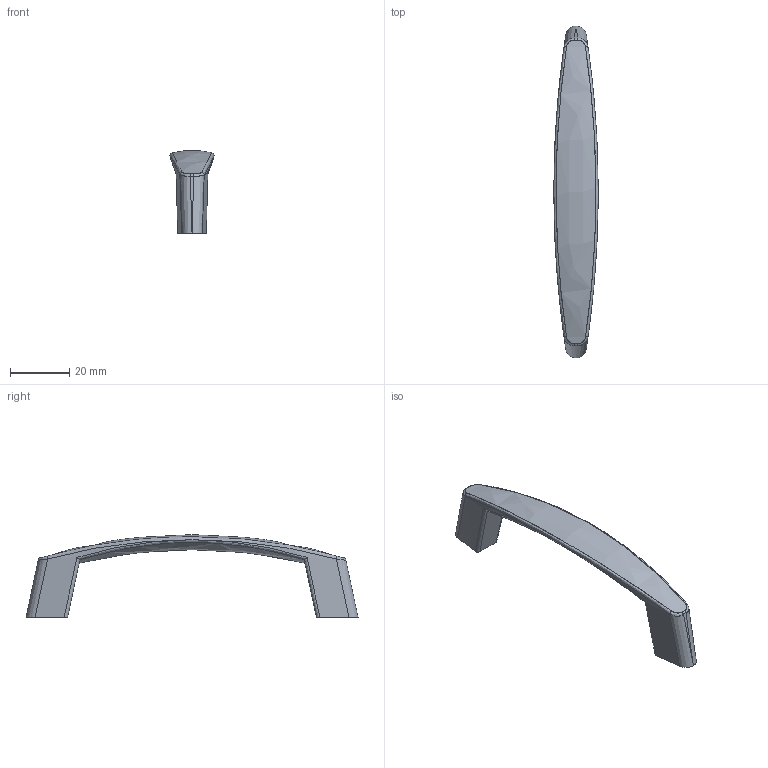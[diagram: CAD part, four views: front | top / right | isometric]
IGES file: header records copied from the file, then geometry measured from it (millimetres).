
Start section: C
Global section: file name: 8114-112.igs; native system: By Siemens PLM Incorporated; preprocessor: XPlus GENERIC/IGES 16.0.42; author: Author; organization: Title; date: 20231126.151814; units: millimetre
Bounding box: 15 x 112 x 27.91 mm (x, y, z)
Surface area: 5072 mm2 (no closed solid volume)
Topology: 0 solids, 0 shells, 50 faces, 264 edges, 264 vertices
Faces by surface type: bspline 50
